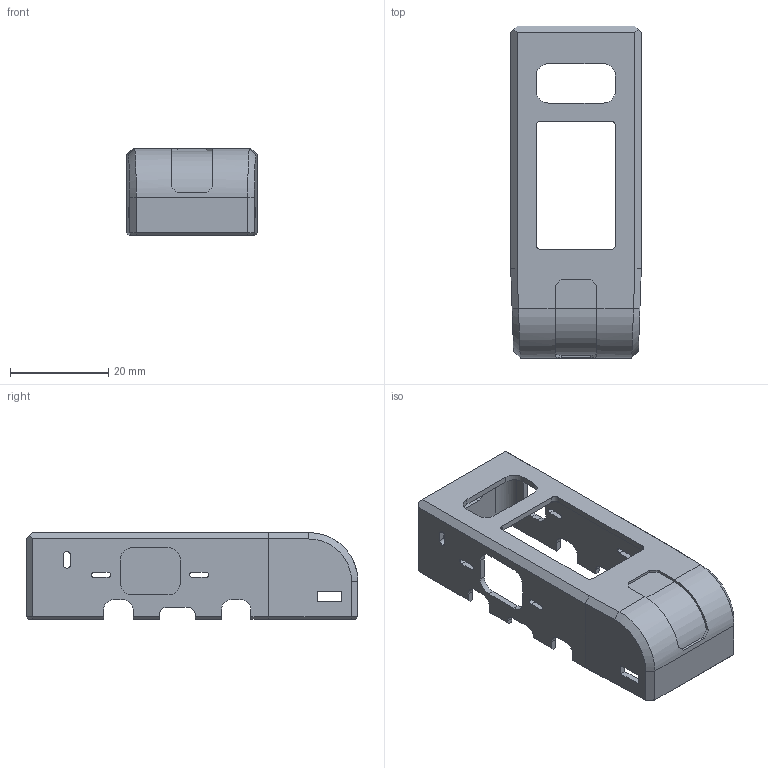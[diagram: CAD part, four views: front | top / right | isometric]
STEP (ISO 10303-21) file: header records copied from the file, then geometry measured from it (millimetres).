
FILE_DESCRIPTION(('Open CASCADE Model'),'2;1');
FILE_NAME('Open CASCADE Shape Model','2026-10-11T10:01:21',('Author'),( 'Open CASCADE'),'Open CASCADE STEP processor 7.9','Open CASCADE 7.9' ,'Unknown');
FILE_SCHEMA(('AUTOMOTIVE_DESIGN { 1 0 10303 214 1 1 1 1 }'));
Length unit declared in the file: millimetre
Products named in the file (1): Open CASCADE STEP translator 7.9 1
Bounding box: 26.6 x 67.6 x 17.7 mm (x, y, z)
Volume: 4344.2 mm3; surface area: 7793.3 mm2
Topology: 1 solids, 1 shells, 204 faces, 590 edges, 388 vertices
Faces by surface type: plane 125, cylinder 59, bspline 20
Entity records: 15038 total; most frequent: CARTESIAN_POINT 3683, DIRECTION 1986, LINE 1284, VECTOR 1284, ORIENTED_EDGE 1180, PCURVE 1180, DEFINITIONAL_REPRESENTATION 1180, EDGE_CURVE 590
